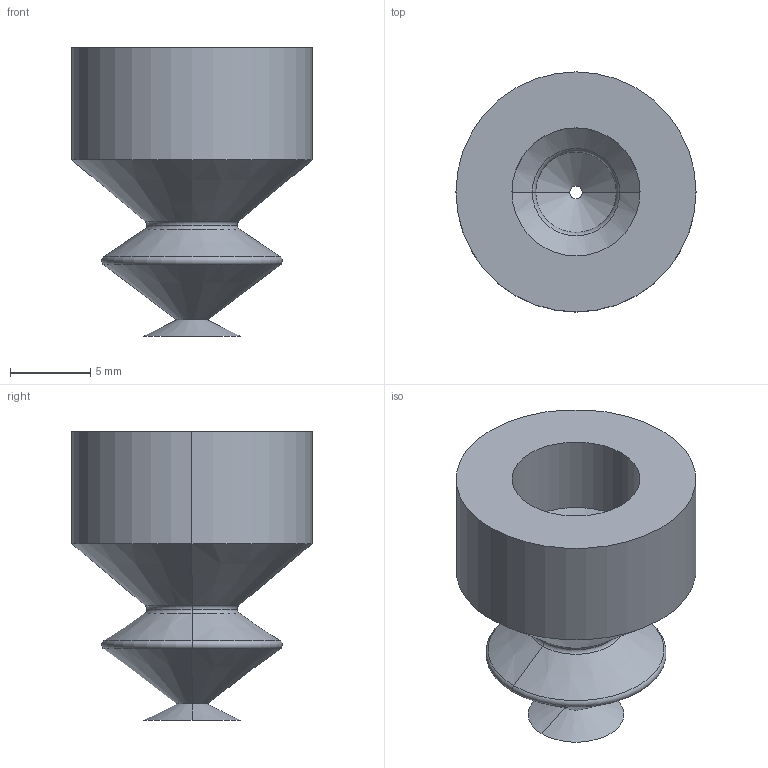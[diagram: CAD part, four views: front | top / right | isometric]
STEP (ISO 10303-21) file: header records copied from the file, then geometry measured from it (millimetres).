
FILE_DESCRIPTION (( 'STEP AP214' ), '1' );
FILE_NAME ('VSH2-M6.STEP', '2019-12-02T06:18:51', ( '微软用户' ), ( '微软中国' ), 'SwSTEP 2.0', 'SolidWorks 2016', '' );
FILE_SCHEMA (( 'AUTOMOTIVE_DESIGN' ));
Length unit declared in the file: millimetre
Products named in the file (1): VSH2-M6
Bounding box: 15 x 15 x 18 mm (x, y, z)
Volume: 788.3 mm3; surface area: 1651.8 mm2
Topology: 1 solids, 1 shells, 35 faces, 70 edges, 38 vertices
Faces by surface type: cone 16, torus 10, cylinder 6, plane 3
Entity records: 942 total; most frequent: DIRECTION 190, CARTESIAN_POINT 144, ORIENTED_EDGE 140, AXIS2_PLACEMENT_3D 84, EDGE_CURVE 70, CIRCLE 48, VERTEX_POINT 38, EDGE_LOOP 38
